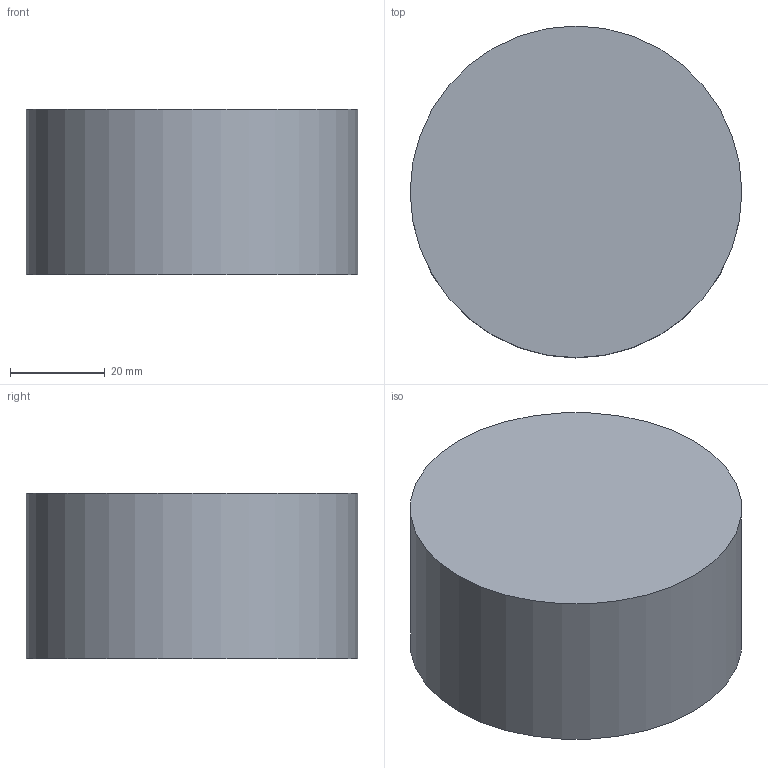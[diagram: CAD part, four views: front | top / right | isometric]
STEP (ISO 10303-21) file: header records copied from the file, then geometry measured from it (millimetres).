
FILE_DESCRIPTION(('Open CASCADE Model'),'2;1');
FILE_NAME('Open CASCADE Shape Model','2026-10-04T01:02:24',('Author'),( 'Open CASCADE'),'Open CASCADE STEP processor 8.0','Open CASCADE 8.0' ,'Unknown');
FILE_SCHEMA(('AUTOMOTIVE_DESIGN { 1 0 10303 214 1 1 1 1 }'));
Length unit declared in the file: millimetre
Products named in the file (1): Open CASCADE STEP translator 8.0 22
Bounding box: 70 x 70 x 35 mm (x, y, z)
Volume: 134695.8 mm3; surface area: 15393.8 mm2
Topology: 1 solids, 1 shells, 3 faces, 3 edges, 2 vertices
Faces by surface type: plane 2, cylinder 1
Full cylindrical faces by diameter (mm): 70 x1
Entity records: 108 total; most frequent: DIRECTION 19, CARTESIAN_POINT 15, AXIS2_PLACEMENT_3D 6, ORIENTED_EDGE 6, PCURVE 6, DEFINITIONAL_REPRESENTATION 6, LINE 5, VECTOR 5
